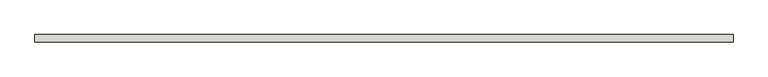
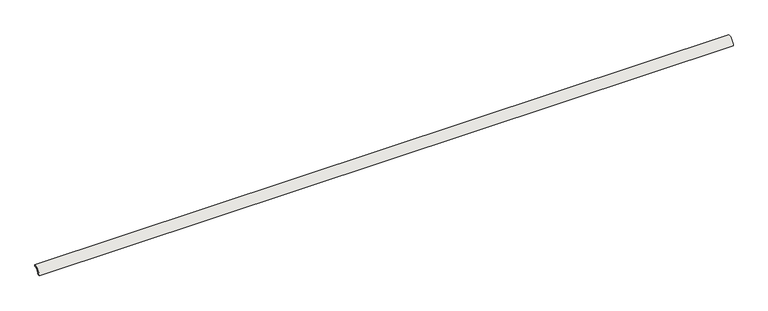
"""IFC4 building model written with IfcOpenShell, lengths in millimetres: slab geometry, ROSA GRES_183 : Pieza 183_Tao_Beige_Liso."""

from ifc_helpers import new_model, si_unit, point, frame, frame_2d, origin, origin_2d, place, context, project, spatial, polyline, circle_curve, trimmed, segment, composite_curve, outline, extrude, source, transform, mapped, element, save


def slab_abddf5fc(model_context):
    return source(origin(), model_context, "Body", "SweptSolid", [
        extrude(outline(composite_curve([segment(polyline([(0.0, 40.0), (0.0, 30.0265886)]), True, "CONTINUOUS"), segment(trimmed(circle_curve(frame_2d((-0.0044453, 0.0044453)), 30.0221435), [point((0.0, 30.0265886))], [point((-30.0265886, 0.0))], True, "CARTESIAN"), True, "CONTINUOUS"), segment(polyline([(-30.0265886, 0.0), (-40.0, 0.0)]), True, "CONTINUOUS"), segment(trimmed(circle_curve(origin_2d(), 40.0), [point((-40.0, 0.0))], [point((0.0, 40.0))], False, "CARTESIAN"), True, "CONTINUOUS")], self_intersect=False)), frame((0.0, 0.0, 0.0), z_axis=(1.0, 0.0, 0.0), x_axis=(0.0, 1.0, 0.0)), (0.0, 0.0, 1.0), 3878.0),
    ])


if __name__ == "__main__":
    model = new_model("IFC4")
    model_context = context("Model", 3, world=origin())
    ifc_project = project(units=[si_unit("LENGTHUNIT", "METRE", prefix="MILLI")], contexts=[model_context])
    site = spatial("IfcSite", under=ifc_project)
    building = spatial("IfcBuilding", under=site)
    placement = place(None, origin())
    slab_shape = slab_abddf5fc(model_context)
    element("IfcSlab", 1, ObjectType="ROSA GRES_183 : Pieza 183_Tao_Beige_Liso", at=placement, inside=building, context=model_context, shape_type="MappedRepresentation", body=[
        mapped(slab_shape, transform((0.0, 0.0, 0.0), x_axis=(1.0, 0.0, 0.0), y_axis=(0.0, 1.0, 0.0), z_axis=(0.0, 0.0, 1.0))),
    ])
    save(model, "model.ifc")
